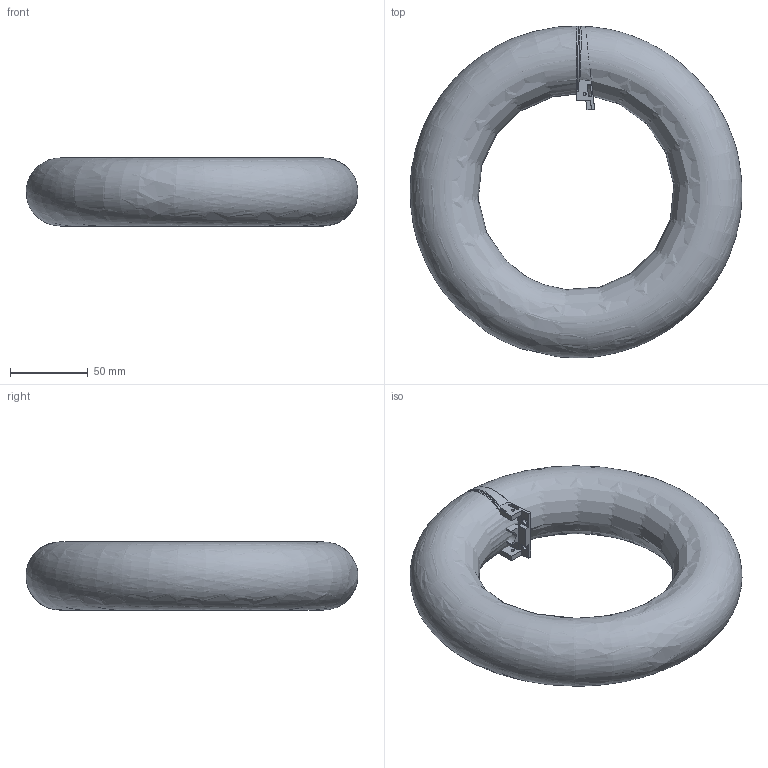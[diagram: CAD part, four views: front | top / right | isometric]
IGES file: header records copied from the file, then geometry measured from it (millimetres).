
Start section: IMSI TurboCAD v14.0
Global section: author: NULL; organization: NULL; date: 20231227.191753; units: millimetre
Bounding box: 213.65 x 213.77 x 43.8 mm (x, y, z)
Surface area: 154909.6 mm2 (no closed solid volume)
Topology: 0 solids, 0 shells, 89 faces, 570 edges, 568 vertices
Faces by surface type: revolution 46, extrusion 43
